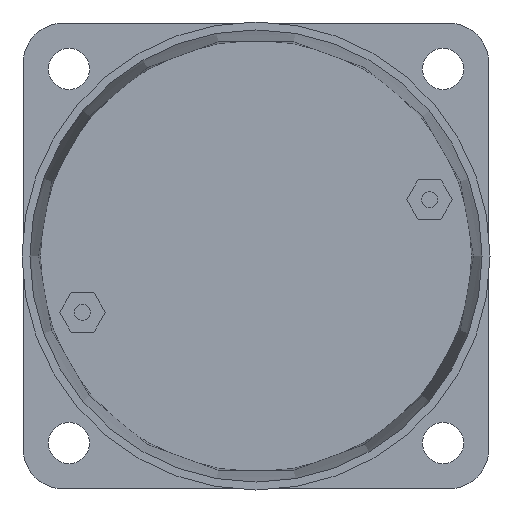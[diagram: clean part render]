
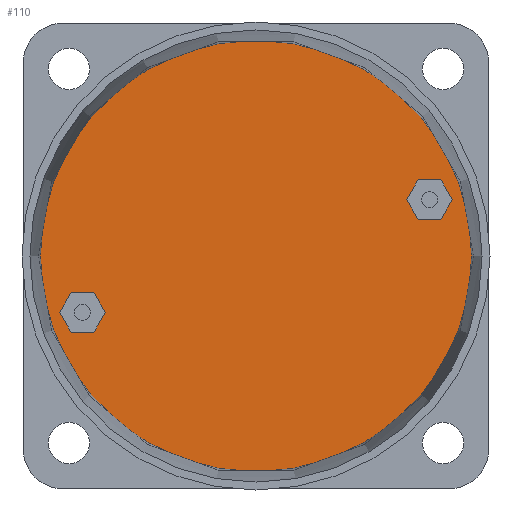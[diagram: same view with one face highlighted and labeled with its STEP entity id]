
A CAD part, left-side view. The second image highlights one B-rep face of the part: STEP entity #110.
In plain terms, the highlighted planar face has unit normal (-1, 0, 0).
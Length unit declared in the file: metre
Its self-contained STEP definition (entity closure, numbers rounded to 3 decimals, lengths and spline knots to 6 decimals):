
#110 = ADVANCED_FACE( '', ( #219, #220, #221 ), #222, .F. );
#219 = FACE_BOUND( '', #341, .T. );
#220 = FACE_BOUND( '', #342, .T. );
#221 = FACE_OUTER_BOUND( '', #343, .T. );
#222 = PLANE( '', #344 );
#341 = EDGE_LOOP( '', ( #601, #602, #603, #604, #605, #606 ) );
#342 = EDGE_LOOP( '', ( #607, #608, #609, #610, #611, #612 ) );
#343 = EDGE_LOOP( '', ( #613 ) );
#344 = AXIS2_PLACEMENT_3D( '', #614, #615, #616 );
#601 = ORIENTED_EDGE( '', *, *, #756, .T. );
#602 = ORIENTED_EDGE( '', *, *, #713, .T. );
#603 = ORIENTED_EDGE( '', *, *, #715, .T. );
#604 = ORIENTED_EDGE( '', *, *, #757, .T. );
#605 = ORIENTED_EDGE( '', *, *, #758, .T. );
#606 = ORIENTED_EDGE( '', *, *, #759, .T. );
#607 = ORIENTED_EDGE( '', *, *, #753, .T. );
#608 = ORIENTED_EDGE( '', *, *, #755, .T. );
#609 = ORIENTED_EDGE( '', *, *, #760, .T. );
#610 = ORIENTED_EDGE( '', *, *, #761, .T. );
#611 = ORIENTED_EDGE( '', *, *, #762, .T. );
#612 = ORIENTED_EDGE( '', *, *, #763, .T. );
#613 = ORIENTED_EDGE( '', *, *, #742, .F. );
#614 = CARTESIAN_POINT( '', ( -0.01125, 0.0295, 0. ) );
#615 = DIRECTION( '', ( 1., 0., 0. ) );
#616 = DIRECTION( '', ( 0., 0., -1. ) );
#713 = EDGE_CURVE( '', #827, #829, #831, .T. );
#715 = EDGE_CURVE( '', #829, #832, #834, .T. );
#742 = EDGE_CURVE( '', #879, #879, #880, .T. );
#753 = EDGE_CURVE( '', #897, #899, #901, .T. );
#755 = EDGE_CURVE( '', #899, #902, #904, .T. );
#756 = EDGE_CURVE( '', #905, #827, #906, .T. );
#757 = EDGE_CURVE( '', #832, #907, #908, .T. );
#758 = EDGE_CURVE( '', #907, #909, #910, .T. );
#759 = EDGE_CURVE( '', #909, #905, #911, .T. );
#760 = EDGE_CURVE( '', #902, #912, #913, .T. );
#761 = EDGE_CURVE( '', #912, #914, #915, .T. );
#762 = EDGE_CURVE( '', #914, #916, #917, .T. );
#763 = EDGE_CURVE( '', #916, #897, #918, .T. );
#827 = VERTEX_POINT( '', #997 );
#829 = VERTEX_POINT( '', #1000 );
#831 = LINE( '', #1003, #1004 );
#832 = VERTEX_POINT( '', #1005 );
#834 = LINE( '', #1008, #1009 );
#879 = VERTEX_POINT( '', #1066 );
#880 = CIRCLE( '', #1067, 0.027191 );
#897 = VERTEX_POINT( '', #1090 );
#899 = VERTEX_POINT( '', #1093 );
#901 = LINE( '', #1096, #1097 );
#902 = VERTEX_POINT( '', #1098 );
#904 = LINE( '', #1101, #1102 );
#905 = VERTEX_POINT( '', #1103 );
#906 = LINE( '', #1104, #1105 );
#907 = VERTEX_POINT( '', #1106 );
#908 = LINE( '', #1107, #1108 );
#909 = VERTEX_POINT( '', #1109 );
#910 = LINE( '', #1110, #1111 );
#911 = LINE( '', #1112, #1113 );
#912 = VERTEX_POINT( '', #1114 );
#913 = LINE( '', #1115, #1116 );
#914 = VERTEX_POINT( '', #1117 );
#915 = LINE( '', #1118, #1119 );
#916 = VERTEX_POINT( '', #1120 );
#917 = LINE( '', #1121, #1122 );
#918 = LINE( '', #1123, #1124 );
#997 = CARTESIAN_POINT( '', ( -0.01125, 0.004739, 0.007107 ) );
#1000 = CARTESIAN_POINT( '', ( -0.01125, 0.006182, 0.004607 ) );
#1003 = CARTESIAN_POINT( '', ( -0.01125, 0.004739, 0.007107 ) );
#1004 = VECTOR( '', #1200, 1. );
#1005 = CARTESIAN_POINT( '', ( -0.01125, 0.009069, 0.004607 ) );
#1008 = CARTESIAN_POINT( '', ( -0.01125, 0.006182, 0.004607 ) );
#1009 = VECTOR( '', #1202, 1. );
#1066 = CARTESIAN_POINT( '', ( -0.01125, 0.0295, -0.027191 ) );
#1067 = AXIS2_PLACEMENT_3D( '', #1257, #1258, #1259 );
#1090 = CARTESIAN_POINT( '', ( -0.01125, 0.052818, -0.009607 ) );
#1093 = CARTESIAN_POINT( '', ( -0.01125, 0.054261, -0.007107 ) );
#1096 = CARTESIAN_POINT( '', ( -0.01125, 0.052818, -0.009607 ) );
#1097 = VECTOR( '', #1274, 1. );
#1098 = CARTESIAN_POINT( '', ( -0.01125, 0.052818, -0.004607 ) );
#1101 = CARTESIAN_POINT( '', ( -0.01125, 0.054261, -0.007107 ) );
#1102 = VECTOR( '', #1276, 1. );
#1103 = CARTESIAN_POINT( '', ( -0.01125, 0.006182, 0.009607 ) );
#1104 = CARTESIAN_POINT( '', ( -0.01125, 0.006182, 0.009607 ) );
#1105 = VECTOR( '', #1277, 1. );
#1106 = CARTESIAN_POINT( '', ( -0.01125, 0.010512, 0.007107 ) );
#1107 = CARTESIAN_POINT( '', ( -0.01125, 0.009069, 0.004607 ) );
#1108 = VECTOR( '', #1278, 1. );
#1109 = CARTESIAN_POINT( '', ( -0.01125, 0.009069, 0.009607 ) );
#1110 = CARTESIAN_POINT( '', ( -0.01125, 0.010512, 0.007107 ) );
#1111 = VECTOR( '', #1279, 1. );
#1112 = CARTESIAN_POINT( '', ( -0.01125, 0.009069, 0.009607 ) );
#1113 = VECTOR( '', #1280, 1. );
#1114 = CARTESIAN_POINT( '', ( -0.01125, 0.049931, -0.004607 ) );
#1115 = CARTESIAN_POINT( '', ( -0.01125, 0.052818, -0.004607 ) );
#1116 = VECTOR( '', #1281, 1. );
#1117 = CARTESIAN_POINT( '', ( -0.01125, 0.048488, -0.007107 ) );
#1118 = CARTESIAN_POINT( '', ( -0.01125, 0.049931, -0.004607 ) );
#1119 = VECTOR( '', #1282, 1. );
#1120 = CARTESIAN_POINT( '', ( -0.01125, 0.049931, -0.009607 ) );
#1121 = CARTESIAN_POINT( '', ( -0.01125, 0.048488, -0.007107 ) );
#1122 = VECTOR( '', #1283, 1. );
#1123 = CARTESIAN_POINT( '', ( -0.01125, 0.049931, -0.009607 ) );
#1124 = VECTOR( '', #1284, 1. );
#1200 = DIRECTION( '', ( 0., 0.5, -0.866 ) );
#1202 = DIRECTION( '', ( 0., 1., 0. ) );
#1257 = CARTESIAN_POINT( '', ( -0.01125, 0.0295, 0. ) );
#1258 = DIRECTION( '', ( 1., 0., 0. ) );
#1259 = DIRECTION( '', ( 0., 0., -1. ) );
#1274 = DIRECTION( '', ( 0., 0.5, 0.866 ) );
#1276 = DIRECTION( '', ( 0., -0.5, 0.866 ) );
#1277 = DIRECTION( '', ( 0., -0.5, -0.866 ) );
#1278 = DIRECTION( '', ( 0., 0.5, 0.866 ) );
#1279 = DIRECTION( '', ( 0., -0.5, 0.866 ) );
#1280 = DIRECTION( '', ( 0., -1., 0. ) );
#1281 = DIRECTION( '', ( 0., -1., 0. ) );
#1282 = DIRECTION( '', ( 0., -0.5, -0.866 ) );
#1283 = DIRECTION( '', ( 0., 0.5, -0.866 ) );
#1284 = DIRECTION( '', ( 0., 1., 0. ) );
